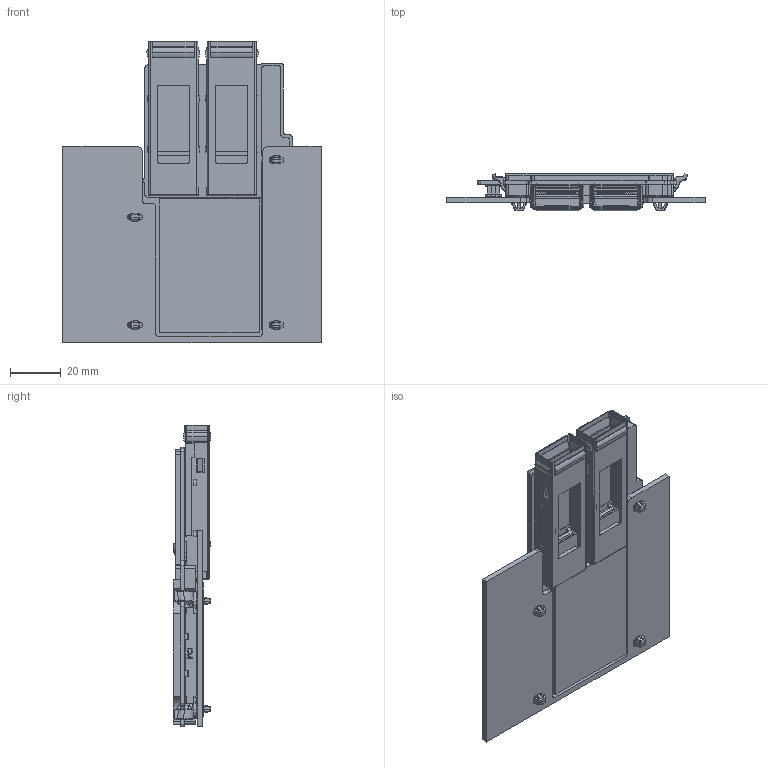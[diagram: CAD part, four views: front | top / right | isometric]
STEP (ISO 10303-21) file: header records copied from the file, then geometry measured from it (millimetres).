
FILE_DESCRIPTION((''),'2;1');
FILE_NAME('OCP-MZ-2_0-BD-ASSY_1X4SFP_8MM_ASM','2015-11-02T',('95030616'),(''),'PRO/ENGINEER BY PARAMETRIC TECHNOLOGY CORPORATION, 2013040','PRO/ENGINEER BY PARAMETRIC TECHNOLOGY CORPORATION, 2013040','');
FILE_SCHEMA(('AUTOMOTIVE_DESIGN { 1 0 10303 214 1 1 1 1 }'));
Products named in the file (21): OCP-2_0-BOARD_2; F01-LED-EVERLIGHT; S61083-121X0XXX; S61083-081X0XXX; BTM-KEEPOUT-2MM; BTM-KEEPOUT-2_9MM; TOP-KEEPOUT-4_5MM; TOP-KEEPOUT-4_5MM-3; TOP-KEEPOUT-4MM; TOP-KEEPOUT-4MM-2; TOP-KEEPOUT-7_5MM; PORTION_MB_LEOPARD_E1_FILLED; FCI_61082_081402LF_LEOPARD_E1; CN120_GPN2_0-8_SMD_H_F-E1; 64POS-REC1; ASSY_PORTION_MB_LEOPARD_E1_ASM__ASM; F06-MEZZ-LATCH-LEFT-5MM; F06-MEZZ-LATCH-RIGHT-5MM; M-U95-T111-1001-REVT1; M-FS1-Z38-X0Z6-10-REVG1; OCP-MZ-2_0-BD-ASSY_1X4SFP_8MM_ASM
Assembly tree (27 placements, depth 3):
  OCP-MZ-2_0-BD-ASSY_1X4SFP_8MM_ASM
    OCP-2_0-BOARD_2
    F01-LED-EVERLIGHT  x4
    S61083-121X0XXX
    S61083-081X0XXX
    BTM-KEEPOUT-2MM
    BTM-KEEPOUT-2_9MM
    TOP-KEEPOUT-4_5MM
    TOP-KEEPOUT-4_5MM-3
    TOP-KEEPOUT-4MM
    TOP-KEEPOUT-4MM-2
    TOP-KEEPOUT-7_5MM
    ASSY_PORTION_MB_LEOPARD_E1_ASM__ASM
      PORTION_MB_LEOPARD_E1_FILLED
      FCI_61082_081402LF_LEOPARD_E1
      CN120_GPN2_0-8_SMD_H_F-E1
      64POS-REC1
    F06-MEZZ-LATCH-LEFT-5MM
    F06-MEZZ-LATCH-RIGHT-5MM  x3
    M-U95-T111-1001-REVT1  x2
    M-FS1-Z38-X0Z6-10-REVG1  x2
Bounding box: 101.72 x 14.95 x 118.74 mm (x, y, z)
Volume: 76346.8 mm3; surface area: 78017.5 mm2
Topology: 26 solids, 26 shells, 9237 faces, 25447 edges, 16025 vertices
Faces by surface type: plane 7684, cylinder 897, bspline 357, cone 136, sphere 131, torus 32
Entity records: 282492 total; most frequent: CARTESIAN_POINT 54600, ORIENTED_EDGE 43612, DIRECTION 37696, EDGE_CURVE 21806, VECTOR 20184, LINE 20184, VERTEX_POINT 13781, AXIS2_PLACEMENT_3D 8756
